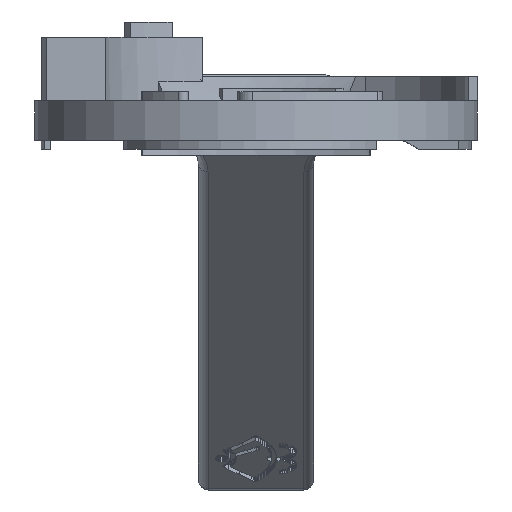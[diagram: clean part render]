
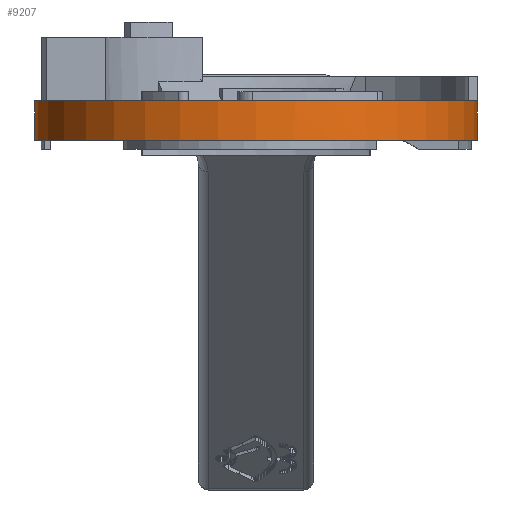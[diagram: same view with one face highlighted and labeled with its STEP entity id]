
A CAD part, front view. The second image highlights one B-rep face of the part: STEP entity #9207.
In plain terms, the highlighted cylindrical face has radius 36.5 mm (diameter 73 mm), a partial arc.
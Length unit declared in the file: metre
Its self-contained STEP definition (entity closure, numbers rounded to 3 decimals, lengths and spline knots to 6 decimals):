
#131=CYLINDRICAL_SURFACE('',#9766,0.0365);
#202=CIRCLE('',#9728,0.0365);
#226=CIRCLE('',#9757,0.0365);
#227=CIRCLE('',#9767,0.0365);
#674=ORIENTED_EDGE('',*,*,#3173,.T.);
#675=ORIENTED_EDGE('',*,*,#3444,.F.);
#676=ORIENTED_EDGE('',*,*,#3445,.F.);
#677=ORIENTED_EDGE('',*,*,#3446,.T.);
#678=ORIENTED_EDGE('',*,*,#3126,.F.);
#679=ORIENTED_EDGE('',*,*,#3447,.T.);
#3126=EDGE_CURVE('',#4510,#4511,#202,.T.);
#3173=EDGE_CURVE('',#4548,#4555,#226,.T.);
#3444=EDGE_CURVE('',#4826,#4555,#5694,.T.);
#3445=EDGE_CURVE('',#4827,#4826,#227,.T.);
#3446=EDGE_CURVE('',#4827,#4511,#5695,.T.);
#3447=EDGE_CURVE('',#4510,#4548,#5696,.T.);
#4510=VERTEX_POINT('',#12825);
#4511=VERTEX_POINT('',#12827);
#4548=VERTEX_POINT('',#12909);
#4555=VERTEX_POINT('',#12922);
#4826=VERTEX_POINT('',#13468);
#4827=VERTEX_POINT('',#13470);
#5694=LINE('',#13467,#6888);
#5695=LINE('',#13471,#6889);
#5696=LINE('',#13472,#6890);
#6888=VECTOR('',#10762,1.);
#6889=VECTOR('',#10765,1.);
#6890=VECTOR('',#10766,1.);
#7788=EDGE_LOOP('',(#674,#675,#676,#677,#678,#679));
#8302=FACE_BOUND('',#7788,.T.);
#9207=ADVANCED_FACE('',(#8302),#131,.T.);
#9728=AXIS2_PLACEMENT_3D('',#12826,#10397,#10398);
#9757=AXIS2_PLACEMENT_3D('',#12923,#10478,#10479);
#9766=AXIS2_PLACEMENT_3D('',#13466,#10760,#10761);
#9767=AXIS2_PLACEMENT_3D('',#13469,#10763,#10764);
#10397=DIRECTION('',(0.,0.,1.));
#10398=DIRECTION('',(1.,0.,0.));
#10478=DIRECTION('',(0.,0.,1.));
#10479=DIRECTION('',(1.,0.,0.));
#10760=DIRECTION('',(0.,0.,-1.));
#10761=DIRECTION('',(-1.,0.,0.));
#10762=DIRECTION('',(0.,0.,-1.));
#10763=DIRECTION('',(0.,0.,1.));
#10764=DIRECTION('',(1.,0.,0.));
#10765=DIRECTION('',(0.,0.,-1.));
#10766=DIRECTION('',(0.,0.,-1.));
#12825=CARTESIAN_POINT('',(-0.018295,0.031584,0.0065));
#12826=CARTESIAN_POINT('',(0.,0.,0.0065));
#12827=CARTESIAN_POINT('',(0.0365,0.,0.0065));
#12909=CARTESIAN_POINT('',(-0.018295,0.031584,0.));
#12922=CARTESIAN_POINT('',(0.018295,0.031584,0.));
#12923=CARTESIAN_POINT('',(0.,0.,0.));
#13466=CARTESIAN_POINT('',(0.,0.,0.0065));
#13467=CARTESIAN_POINT('',(0.018295,0.031584,0.0105));
#13468=CARTESIAN_POINT('',(0.018295,0.031584,0.0105));
#13469=CARTESIAN_POINT('',(0.,0.,0.0105));
#13470=CARTESIAN_POINT('',(0.0365,0.,0.0105));
#13471=CARTESIAN_POINT('',(0.0365,0.,0.0105));
#13472=CARTESIAN_POINT('',(-0.018295,0.031584,0.0065));
